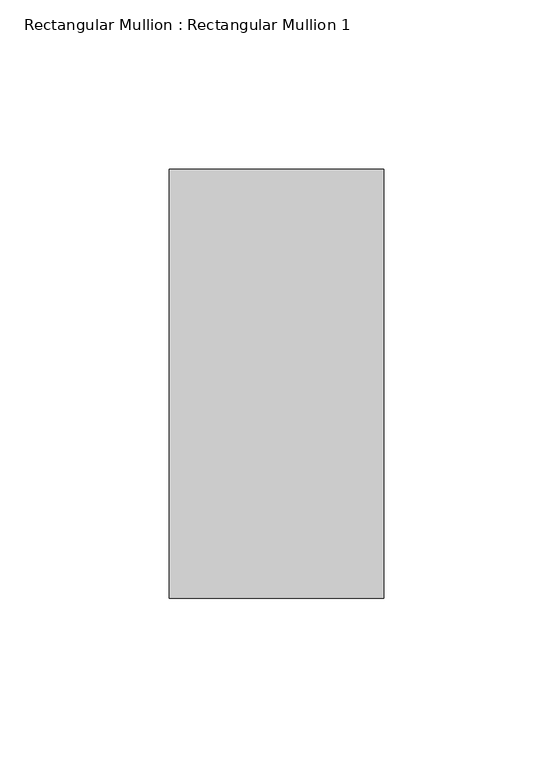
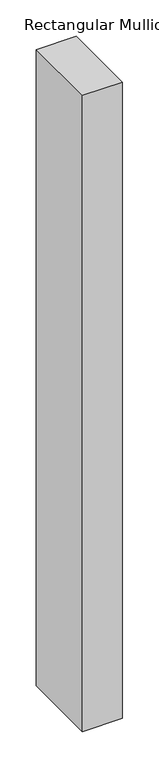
"""IFC4 building model written with IfcOpenShell, lengths in millimetres: member geometry, Rectangular Mullion : Rectangular Mullion 1."""

from ifc_helpers import new_model, si_unit, frame, origin, place, context, project, spatial, polyline, outline, extrude, source, transform, mapped, element, save


def rectangular_mullion_rectangular_mullion_1_387e4cd3(model_context):
    return source(origin(), model_context, "Body", "SweptSolid", [
        extrude(outline(polyline([(31.75, 63.5), (31.75, -63.5), (-31.75, -63.5), (-31.75, 63.5), (31.75, 63.5)])), frame((0.0, 0.0, -1070.0080051), z_axis=(0.0, 0.0, 1.0), x_axis=(1.0, 0.0, 0.0)), (0.0, 0.0, 1.0), 1070.0080051),
    ])


if __name__ == "__main__":
    model = new_model("IFC4")
    model_context = context("Model", 3, world=origin())
    ifc_project = project(units=[si_unit("LENGTHUNIT", "METRE", prefix="MILLI")], contexts=[model_context])
    site = spatial("IfcSite", under=ifc_project)
    building = spatial("IfcBuilding", under=site)
    placement = place(None, origin())
    rectangular_mullion_rectangular_mullion_1_shape = rectangular_mullion_rectangular_mullion_1_387e4cd3(model_context)
    element("IfcMember", 1, ObjectType="Rectangular Mullion : Rectangular Mullion 1", at=placement, inside=building, context=model_context, shape_type="MappedRepresentation", body=[
        mapped(rectangular_mullion_rectangular_mullion_1_shape, transform((0.0, 0.0, 0.0), x_axis=(1.0, 0.0, 0.0), y_axis=(0.0, 1.0, 0.0), z_axis=(0.0, 0.0, 1.0))),
    ])
    save(model, "model.ifc")
